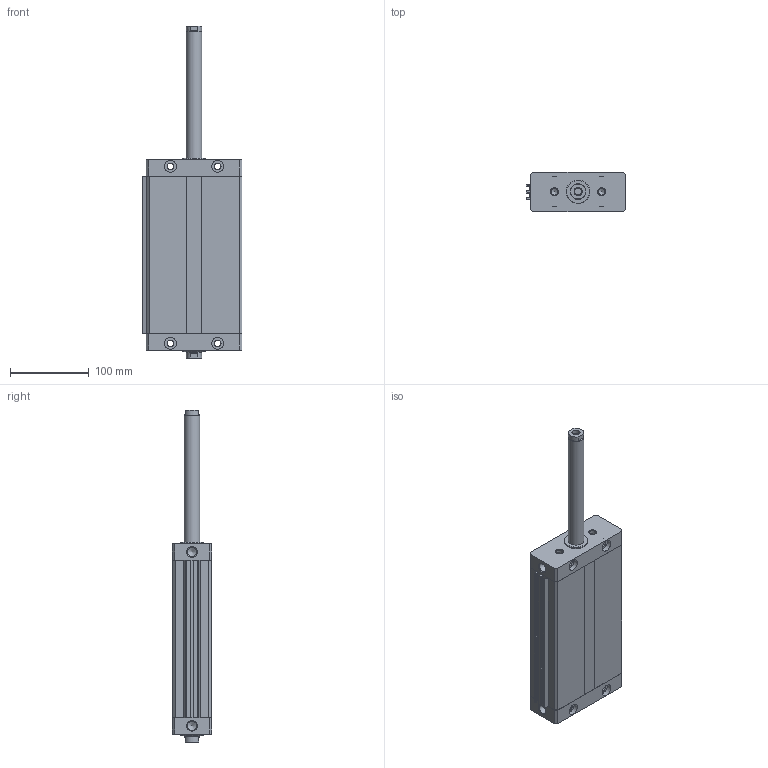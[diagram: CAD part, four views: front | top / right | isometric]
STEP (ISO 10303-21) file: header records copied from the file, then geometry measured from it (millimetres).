
FILE_DESCRIPTION((''),'2;1');
FILE_NAME('I:\Area Tecnica\Disegni\VARIE-3D\Componenti\1370 - CPO\1370_##_0000_03\1370_63_0160_03-01.iam.step','2010-12-16T11:01:34',(''),(''),'Autodesk Inventor 2011','Autodesk Inventor 2011','');
FILE_SCHEMA(('AUTOMOTIVE_DESIGN { 1 0 10303 214 1 1 1 1 }'));
Length unit declared in the file: millimetre
Products named in the file (5): 1370_63_0160_03-01; 1370_05_63_0000; 1370_06_63_0160; 1370_08_63_0000; 1370_3_63_0160
Assembly tree (4 placements, depth 2):
  1370_63_0160_03-01
    1370_05_63_0000
    1370_06_63_0160
    1370_08_63_0000
    1370_3_63_0160
Bounding box: 126.75 x 50 x 422 mm (x, y, z)
Volume: 1001351.8 mm3; surface area: 222525.9 mm2
Topology: 4 solids, 4 shells, 164 faces, 398 edges, 252 vertices
Faces by surface type: plane 94, cylinder 50, cone 20
Full cylindrical faces by diameter (mm): 8.5 x20, 10.3 x2, 11.75 x2, 15 x8, 20 x4, 30 x2
Entity records: 4722 total; most frequent: DIRECTION 794, CARTESIAN_POINT 737, ORIENTED_EDGE 652, EDGE_CURVE 326, AXIS2_PLACEMENT_3D 295, EDGE_LOOP 254, VERTEX_POINT 238, VECTOR 204
